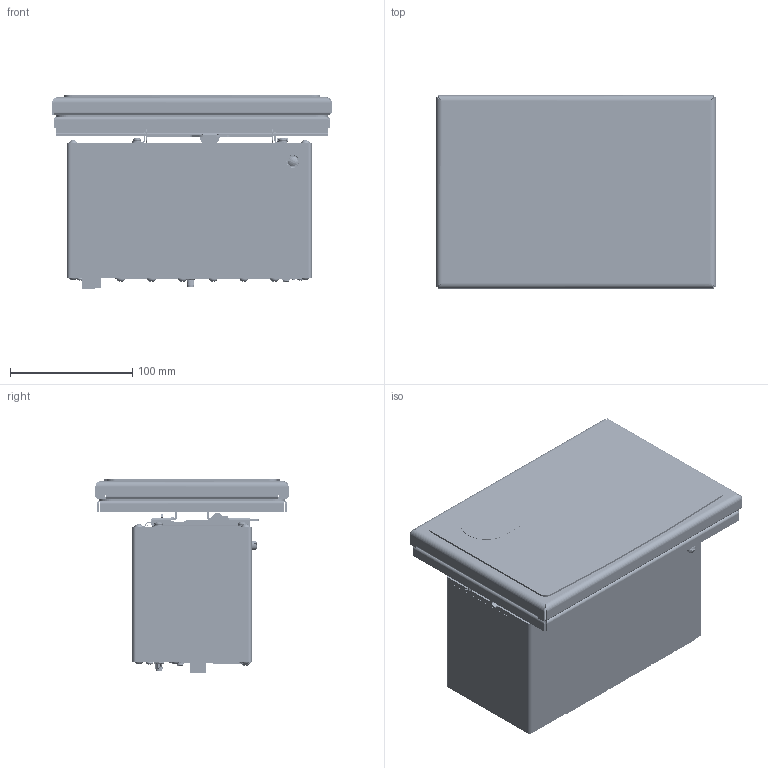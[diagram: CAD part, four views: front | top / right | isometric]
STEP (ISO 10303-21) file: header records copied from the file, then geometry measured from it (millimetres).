
FILE_DESCRIPTION (( 'STEP AP203' ), '1' );
FILE_NAME ('186618.STEP', '2024-11-10T14:02:42', ( '' ), ( '' ), 'SwSTEP 2.0', 'SolidWorks 2023', '' );
FILE_SCHEMA (( 'CONFIG_CONTROL_DESIGN' ));
Products named in the file (1): 186618
Bounding box: 228.6 x 157.99 x 158.54 mm (x, y, z)
Surface area: 796662.3 mm2 (no closed solid volume)
Topology: 0 solids, 358 shells, 12802 faces, 36001 edges, 23738 vertices
Faces by surface type: cylinder 5465, plane 4869, bspline 1313, cone 878, torus 202, sphere 75
Entity records: 518537 total; most frequent: CARTESIAN_POINT 202933, ORIENTED_EDGE 69961, DIRECTION 60116, EDGE_CURVE 35948, VERTEX_POINT 23732, AXIS2_PLACEMENT_3D 20728, LINE 18660, VECTOR 18660
